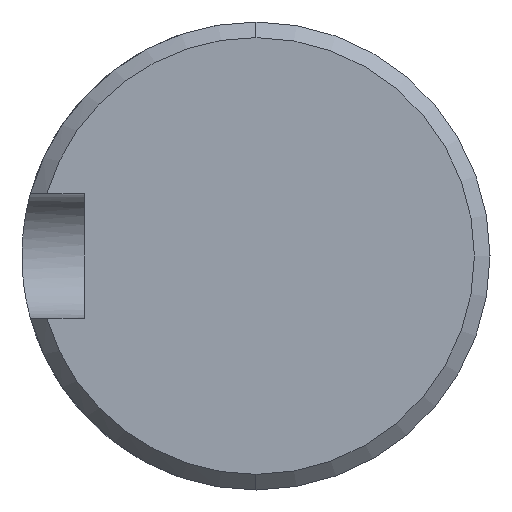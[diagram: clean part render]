
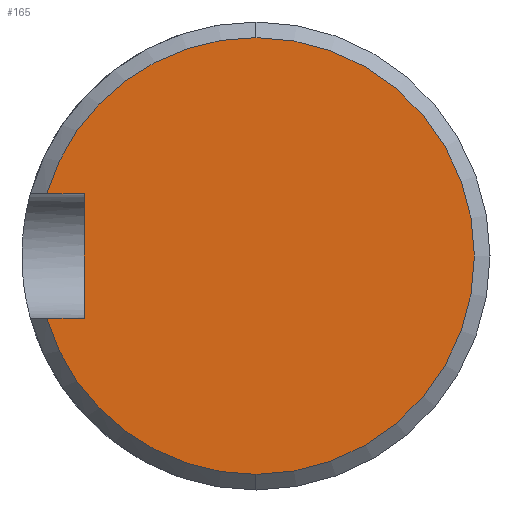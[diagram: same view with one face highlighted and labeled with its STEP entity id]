
A CAD part, left-side view. The second image highlights one B-rep face of the part: STEP entity #165.
In plain terms, the highlighted planar face has unit normal (-1, 0, 0).
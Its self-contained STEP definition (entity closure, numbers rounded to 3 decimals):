
#155 = EDGE_LOOP ( 'NONE', ( #162, #1124, #1127, #1123, #1131, #1118 ) ) ;
#162 = ORIENTED_EDGE ( 'NONE', *, *, #1129, .F. ) ;
#164 = VERTEX_POINT ( 'NONE', #669 ) ;
#165 = ADVANCED_FACE ( 'NONE', ( #664 ), #627, .T. ) ;
#170 = VERTEX_POINT ( 'NONE', #657 ) ;
#172 = VERTEX_POINT ( 'NONE', #661 ) ;
#202 = VERTEX_POINT ( 'NONE', #766 ) ;
#218 = EDGE_CURVE ( 'NONE', #202, #282, #798, .T. ) ;
#274 = VERTEX_POINT ( 'NONE', #835 ) ;
#275 = EDGE_CURVE ( 'NONE', #282, #274, #834, .T. ) ;
#282 = VERTEX_POINT ( 'NONE', #840 ) ;
#627 = PLANE ( 'NONE',  #660 ) ;
#655 = DIRECTION ( 'NONE',  ( 0., 0., 1. ) ) ;
#656 = DIRECTION ( 'NONE',  ( -1., 0., 0. ) ) ;
#657 = CARTESIAN_POINT ( 'NONE',  ( 0., 11., 4. ) ) ;
#660 = AXIS2_PLACEMENT_3D ( 'NONE', #670, #656, #655 ) ;
#661 = CARTESIAN_POINT ( 'NONE',  ( 0., 11., -4. ) ) ;
#664 = FACE_OUTER_BOUND ( 'NONE', #155, .T. ) ;
#669 = CARTESIAN_POINT ( 'NONE',  ( 0., 13.416, -4. ) ) ;
#670 = CARTESIAN_POINT ( 'NONE',  ( 0., 15., 0. ) ) ;
#754 = DIRECTION ( 'NONE',  ( -1., 0., 0. ) ) ;
#766 = CARTESIAN_POINT ( 'NONE',  ( 0., 0., -14. ) ) ;
#776 = DIRECTION ( 'NONE',  ( 0., 0., 1. ) ) ;
#777 = AXIS2_PLACEMENT_3D ( 'NONE', #791, #754, #776 ) ;
#791 = CARTESIAN_POINT ( 'NONE',  ( 0., 0., 0. ) ) ;
#798 = CIRCLE ( 'NONE', #777, 14. ) ;
#834 = CIRCLE ( 'NONE', #892, 14. ) ;
#835 = CARTESIAN_POINT ( 'NONE',  ( 0., 13.416, 4. ) ) ;
#839 = CARTESIAN_POINT ( 'NONE',  ( 0., 0., 0. ) ) ;
#840 = CARTESIAN_POINT ( 'NONE',  ( 0., 0., 14. ) ) ;
#890 = DIRECTION ( 'NONE',  ( 0., 0., 1. ) ) ;
#891 = DIRECTION ( 'NONE',  ( -1., 0., 0. ) ) ;
#892 = AXIS2_PLACEMENT_3D ( 'NONE', #839, #891, #890 ) ;
#895 = AXIS2_PLACEMENT_3D ( 'NONE', #944, #943, #942 ) ;
#930 = DIRECTION ( 'NONE',  ( 0., 0., 1. ) ) ;
#931 = VECTOR ( 'NONE', #930, 1000. ) ;
#932 = CARTESIAN_POINT ( 'NONE',  ( 0., 11., -4. ) ) ;
#936 = LINE ( 'NONE', #932, #931 ) ;
#938 = DIRECTION ( 'NONE',  ( 0., 1., 0. ) ) ;
#939 = VECTOR ( 'NONE', #938, 1000. ) ;
#942 = DIRECTION ( 'NONE',  ( 0., 0., 1. ) ) ;
#943 = DIRECTION ( 'NONE',  ( -1., 0., 0. ) ) ;
#944 = CARTESIAN_POINT ( 'NONE',  ( 0., 0., 0. ) ) ;
#947 = DIRECTION ( 'NONE',  ( 0., 1., 0. ) ) ;
#948 = VECTOR ( 'NONE', #947, 1000. ) ;
#949 = CARTESIAN_POINT ( 'NONE',  ( 0., 11., -4. ) ) ;
#950 = CARTESIAN_POINT ( 'NONE',  ( 0., 11., 4. ) ) ;
#951 = LINE ( 'NONE', #950, #939 ) ;
#952 = CIRCLE ( 'NONE', #895, 14. ) ;
#953 = LINE ( 'NONE', #949, #948 ) ;
#1118 = ORIENTED_EDGE ( 'NONE', *, *, #275, .T. ) ;
#1123 = ORIENTED_EDGE ( 'NONE', *, *, #1128, .T. ) ;
#1124 = ORIENTED_EDGE ( 'NONE', *, *, #1132, .F. ) ;
#1125 = EDGE_CURVE ( 'NONE', #172, #164, #953, .T. ) ;
#1127 = ORIENTED_EDGE ( 'NONE', *, *, #1125, .T. ) ;
#1128 = EDGE_CURVE ( 'NONE', #164, #202, #952, .T. ) ;
#1129 = EDGE_CURVE ( 'NONE', #170, #274, #951, .T. ) ;
#1131 = ORIENTED_EDGE ( 'NONE', *, *, #218, .T. ) ;
#1132 = EDGE_CURVE ( 'NONE', #172, #170, #936, .T. ) ;
